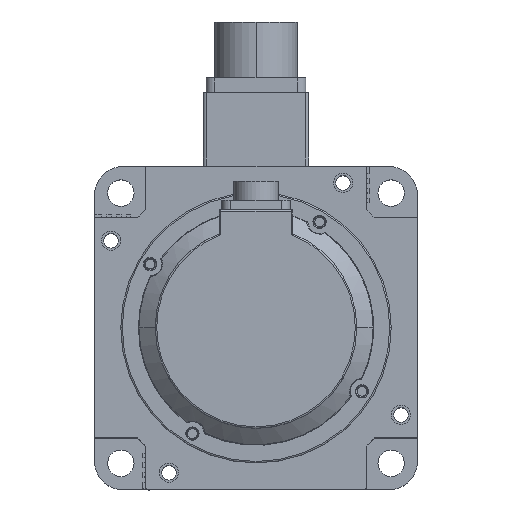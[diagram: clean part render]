
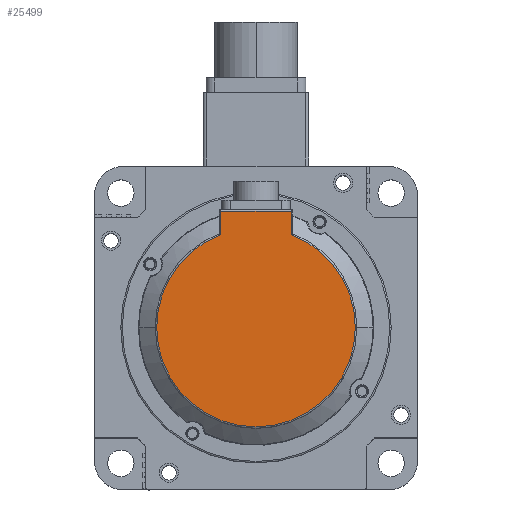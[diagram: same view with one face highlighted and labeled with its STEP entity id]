
A CAD part, top view. The second image highlights one B-rep face of the part: STEP entity #25499.
In plain terms, the highlighted planar face has unit normal (0, 0, 1).
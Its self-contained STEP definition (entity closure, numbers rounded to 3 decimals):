
#203 = CARTESIAN_POINT ( 'NONE',  ( 12., 0., 45. ) ) ;
#496 = CIRCLE ( 'NONE', #10397, 33.78 ) ;
#703 = CARTESIAN_POINT ( 'NONE',  ( -33.78, 0., 45. ) ) ;
#864 = CARTESIAN_POINT ( 'NONE',  ( -12., 39.5, 45. ) ) ;
#1590 = CARTESIAN_POINT ( 'NONE',  ( 0., 0., 45. ) ) ;
#1850 = EDGE_CURVE ( 'NONE', #16495, #10568, #5059, .T. ) ;
#2036 = VECTOR ( 'NONE', #12451, 1000. ) ;
#2614 = EDGE_CURVE ( 'NONE', #21747, #14453, #496, .T. ) ;
#2616 = CARTESIAN_POINT ( 'NONE',  ( 0., 0., 45. ) ) ;
#2816 = FACE_OUTER_BOUND ( 'NONE', #24119, .T. ) ;
#3738 = CARTESIAN_POINT ( 'NONE',  ( -12., 0., 45. ) ) ;
#3791 = VECTOR ( 'NONE', #15940, 1000. ) ;
#4370 = AXIS2_PLACEMENT_3D ( 'NONE', #2616, #13062, #8932 ) ;
#4612 = CARTESIAN_POINT ( 'NONE',  ( 0., 0., 45. ) ) ;
#5059 = LINE ( 'NONE', #3738, #3791 ) ;
#5625 = DIRECTION ( 'NONE',  ( 1., 0., 0. ) ) ;
#6007 = ORIENTED_EDGE ( 'NONE', *, *, #1850, .T. ) ;
#6151 = CARTESIAN_POINT ( 'NONE',  ( -12., 31.576, 45. ) ) ;
#7191 = ORIENTED_EDGE ( 'NONE', *, *, #7926, .T. ) ;
#7926 = EDGE_CURVE ( 'NONE', #10568, #21747, #21245, .T. ) ;
#8490 = CARTESIAN_POINT ( 'NONE',  ( 12., 31.576, 45. ) ) ;
#8932 = DIRECTION ( 'NONE',  ( 1., 0., 0. ) ) ;
#9394 = PLANE ( 'NONE',  #11575 ) ;
#10249 = DIRECTION ( 'NONE',  ( 0., 0., 1. ) ) ;
#10397 = AXIS2_PLACEMENT_3D ( 'NONE', #22601, #10249, #12642 ) ;
#10568 = VERTEX_POINT ( 'NONE', #6151 ) ;
#10662 = ORIENTED_EDGE ( 'NONE', *, *, #22026, .T. ) ;
#11035 = DIRECTION ( 'NONE',  ( -1., 0., 0. ) ) ;
#11048 = VECTOR ( 'NONE', #11035, 1000. ) ;
#11356 = VERTEX_POINT ( 'NONE', #8490 ) ;
#11575 = AXIS2_PLACEMENT_3D ( 'NONE', #1590, #21631, #5625 ) ;
#12451 = DIRECTION ( 'NONE',  ( 0., 1., 0. ) ) ;
#12642 = DIRECTION ( 'NONE',  ( 1., 0., 0. ) ) ;
#12684 = CIRCLE ( 'NONE', #21398, 33.78 ) ;
#13062 = DIRECTION ( 'NONE',  ( 0., 0., 1. ) ) ;
#14280 = DIRECTION ( 'NONE',  ( 0., 0., 1. ) ) ;
#14453 = VERTEX_POINT ( 'NONE', #25427 ) ;
#14798 = ORIENTED_EDGE ( 'NONE', *, *, #21573, .T. ) ;
#14996 = CARTESIAN_POINT ( 'NONE',  ( -12.5, 39.5, 45. ) ) ;
#15940 = DIRECTION ( 'NONE',  ( 0., -1., 0. ) ) ;
#15986 = ORIENTED_EDGE ( 'NONE', *, *, #16138, .T. ) ;
#16138 = EDGE_CURVE ( 'NONE', #19071, #16495, #19205, .T. ) ;
#16495 = VERTEX_POINT ( 'NONE', #864 ) ;
#17887 = CARTESIAN_POINT ( 'NONE',  ( 12., 39.5, 45. ) ) ;
#18466 = DIRECTION ( 'NONE',  ( 1., 0., 0. ) ) ;
#19071 = VERTEX_POINT ( 'NONE', #17887 ) ;
#19205 = LINE ( 'NONE', #14996, #11048 ) ;
#21245 = CIRCLE ( 'NONE', #4370, 33.78 ) ;
#21258 = ORIENTED_EDGE ( 'NONE', *, *, #2614, .T. ) ;
#21398 = AXIS2_PLACEMENT_3D ( 'NONE', #4612, #14280, #18466 ) ;
#21573 = EDGE_CURVE ( 'NONE', #11356, #19071, #24266, .T. ) ;
#21631 = DIRECTION ( 'NONE',  ( 0., 0., 1. ) ) ;
#21747 = VERTEX_POINT ( 'NONE', #703 ) ;
#22026 = EDGE_CURVE ( 'NONE', #14453, #11356, #12684, .T. ) ;
#22601 = CARTESIAN_POINT ( 'NONE',  ( 0., 0., 45. ) ) ;
#24119 = EDGE_LOOP ( 'NONE', ( #15986, #6007, #7191, #21258, #10662, #14798 ) ) ;
#24266 = LINE ( 'NONE', #203, #2036 ) ;
#25427 = CARTESIAN_POINT ( 'NONE',  ( 33.78, 0., 45. ) ) ;
#25499 = ADVANCED_FACE ( 'NONE', ( #2816 ), #9394, .T. ) ;
